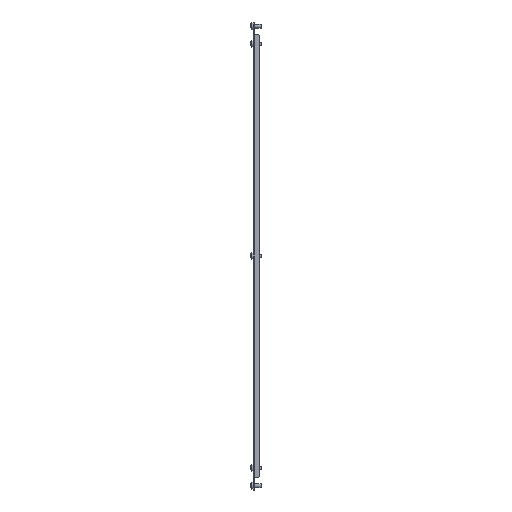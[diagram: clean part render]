
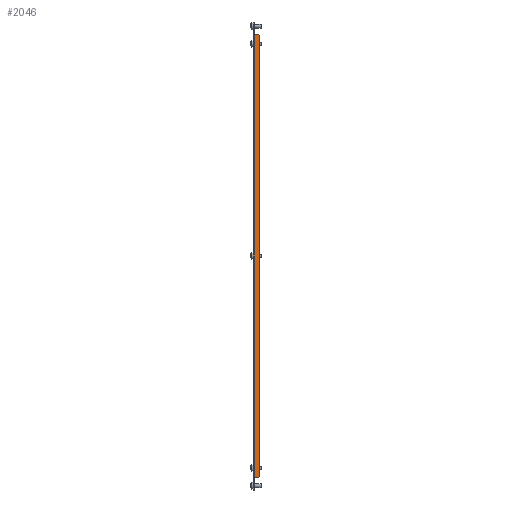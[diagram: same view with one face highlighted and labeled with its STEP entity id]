
A CAD part, left-side view. The second image highlights one B-rep face of the part: STEP entity #2046.
In plain terms, the highlighted planar face has unit normal (-1, 0, 0) as drawn and (1, 0, 0) by its records, which use the part's own axes.
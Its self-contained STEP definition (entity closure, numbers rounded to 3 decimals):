
#39 = DIRECTION ( 'NONE',  ( 0., 1., 0. ) ) ;
#93 = DIRECTION ( 'NONE',  ( 0., 0., 1. ) ) ;
#174 = VERTEX_POINT ( 'NONE', #754 ) ;
#262 = CARTESIAN_POINT ( 'NONE',  ( 234., -313., 0. ) ) ;
#363 = CARTESIAN_POINT ( 'NONE',  ( 234., -313., 0. ) ) ;
#386 = CARTESIAN_POINT ( 'NONE',  ( 234., -312., -9. ) ) ;
#427 = VECTOR ( 'NONE', #93, 1000. ) ;
#494 = ORIENTED_EDGE ( 'NONE', *, *, #1176, .T. ) ;
#503 = EDGE_CURVE ( 'NONE', #2714, #3039, #2878, .T. ) ;
#524 = CARTESIAN_POINT ( 'NONE',  ( 234., 313., 0. ) ) ;
#534 = LINE ( 'NONE', #262, #2775 ) ;
#541 = AXIS2_PLACEMENT_3D ( 'NONE', #3043, #1093, #1928 ) ;
#568 = VERTEX_POINT ( 'NONE', #887 ) ;
#598 = CARTESIAN_POINT ( 'NONE',  ( 234., 0., 0. ) ) ;
#610 = CARTESIAN_POINT ( 'NONE',  ( 234., 0., -9. ) ) ;
#681 = DIRECTION ( 'NONE',  ( 0., 0., -1. ) ) ;
#683 = LINE ( 'NONE', #386, #2479 ) ;
#754 = CARTESIAN_POINT ( 'NONE',  ( 234., 313., -8. ) ) ;
#781 = VECTOR ( 'NONE', #39, 1000. ) ;
#887 = CARTESIAN_POINT ( 'NONE',  ( 234., 313., 0. ) ) ;
#939 = DIRECTION ( 'NONE',  ( 0., 0.707, -0.707 ) ) ;
#997 = ORIENTED_EDGE ( 'NONE', *, *, #2268, .F. ) ;
#1002 = PLANE ( 'NONE',  #541 ) ;
#1011 = VECTOR ( 'NONE', #1096, 1000. ) ;
#1093 = DIRECTION ( 'NONE',  ( -1., 0., 0. ) ) ;
#1096 = DIRECTION ( 'NONE',  ( 0., 0., 1. ) ) ;
#1176 = EDGE_CURVE ( 'NONE', #3039, #174, #2292, .T. ) ;
#1218 = VERTEX_POINT ( 'NONE', #2560 ) ;
#1259 = VECTOR ( 'NONE', #2276, 1000. ) ;
#1320 = EDGE_CURVE ( 'NONE', #1920, #568, #2647, .T. ) ;
#1329 = EDGE_CURVE ( 'NONE', #1758, #2714, #683, .T. ) ;
#1364 = EDGE_LOOP ( 'NONE', ( #1962, #494, #3487, #2281, #1673, #997, #1561, #3542 ) ) ;
#1468 = CARTESIAN_POINT ( 'NONE',  ( 234., -313., -8. ) ) ;
#1561 = ORIENTED_EDGE ( 'NONE', *, *, #2825, .T. ) ;
#1620 = EDGE_CURVE ( 'NONE', #174, #1920, #3641, .T. ) ;
#1622 = CARTESIAN_POINT ( 'NONE',  ( 234., 313., -2.1 ) ) ;
#1673 = ORIENTED_EDGE ( 'NONE', *, *, #2454, .T. ) ;
#1708 = DIRECTION ( 'NONE',  ( 0., 0., 1. ) ) ;
#1758 = VERTEX_POINT ( 'NONE', #1468 ) ;
#1797 = CARTESIAN_POINT ( 'NONE',  ( 234., 313., -2.1 ) ) ;
#1807 = LINE ( 'NONE', #363, #1886 ) ;
#1886 = VECTOR ( 'NONE', #681, 1000. ) ;
#1920 = VERTEX_POINT ( 'NONE', #1622 ) ;
#1928 = DIRECTION ( 'NONE',  ( 0., 0., 1. ) ) ;
#1962 = ORIENTED_EDGE ( 'NONE', *, *, #503, .T. ) ;
#2046 = ADVANCED_FACE ( 'NONE', ( #3237 ), #1002, .F. ) ;
#2258 = CARTESIAN_POINT ( 'NONE',  ( 234., 313., -8. ) ) ;
#2268 = EDGE_CURVE ( 'NONE', #3463, #1218, #534, .T. ) ;
#2276 = DIRECTION ( 'NONE',  ( 0., 0.707, 0.707 ) ) ;
#2281 = ORIENTED_EDGE ( 'NONE', *, *, #1320, .T. ) ;
#2292 = LINE ( 'NONE', #2258, #1259 ) ;
#2359 = VECTOR ( 'NONE', #3138, 1000. ) ;
#2454 = EDGE_CURVE ( 'NONE', #568, #1218, #3407, .T. ) ;
#2479 = VECTOR ( 'NONE', #939, 1000. ) ;
#2560 = CARTESIAN_POINT ( 'NONE',  ( 234., -313., 0. ) ) ;
#2647 = LINE ( 'NONE', #1797, #427 ) ;
#2677 = CARTESIAN_POINT ( 'NONE',  ( 234., 312., -9. ) ) ;
#2714 = VERTEX_POINT ( 'NONE', #3065 ) ;
#2775 = VECTOR ( 'NONE', #1708, 1000. ) ;
#2825 = EDGE_CURVE ( 'NONE', #3463, #1758, #1807, .T. ) ;
#2878 = LINE ( 'NONE', #610, #781 ) ;
#3039 = VERTEX_POINT ( 'NONE', #2677 ) ;
#3043 = CARTESIAN_POINT ( 'NONE',  ( 234., 0., 0. ) ) ;
#3065 = CARTESIAN_POINT ( 'NONE',  ( 234., -312., -9. ) ) ;
#3138 = DIRECTION ( 'NONE',  ( 0., -1., 0. ) ) ;
#3237 = FACE_OUTER_BOUND ( 'NONE', #1364, .T. ) ;
#3305 = CARTESIAN_POINT ( 'NONE',  ( 234., -313., -2.1 ) ) ;
#3407 = LINE ( 'NONE', #598, #2359 ) ;
#3463 = VERTEX_POINT ( 'NONE', #3305 ) ;
#3487 = ORIENTED_EDGE ( 'NONE', *, *, #1620, .T. ) ;
#3542 = ORIENTED_EDGE ( 'NONE', *, *, #1329, .T. ) ;
#3641 = LINE ( 'NONE', #524, #1011 ) ;
